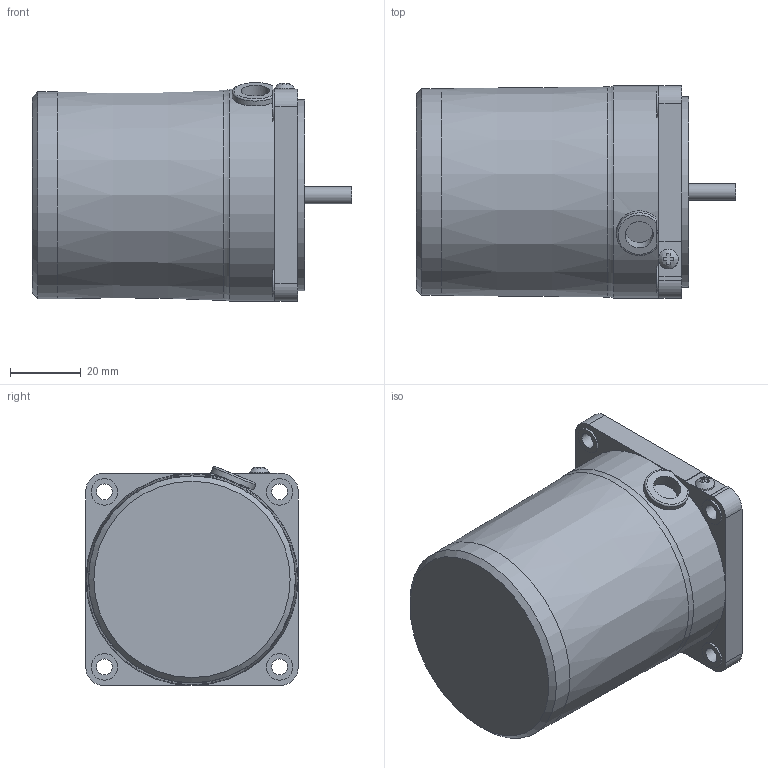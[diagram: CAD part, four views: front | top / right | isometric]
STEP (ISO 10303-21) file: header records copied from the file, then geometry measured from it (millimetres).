
FILE_DESCRIPTION(/* description */ (''),/* implementation_level */ '2;1');
FILE_NAME(/* name */ 'E:\도면작업\2016\0704) 미주향 SG 도면\3D MOTOR\SG6I06G_.stp',/* time_stamp */ '2016-07-22T13:40:45+09:00',/* author */ ('jy-jung'),/* organization */ (''),/* preprocessor_version */ 'ST-DEVELOPER v15.6',/* originating_system */ 'Autodesk Inventor 2015',/* authorisation */ '');
FILE_SCHEMA (('AUTOMOTIVE_DESIGN { 1 0 10303 214 3 1 1 }'));
Length unit declared in the file: millimetre
Products named in the file (1): 부품1
Bounding box: 90.2 x 60 x 61.91 mm (x, y, z)
Volume: 209594.4 mm3; surface area: 23469.2 mm2
Topology: 1 solids, 2 shells, 95 faces, 244 edges, 159 vertices
Faces by surface type: plane 60, cylinder 30, torus 2, cone 2, bspline 1
Full cylindrical faces by diameter (mm): 4.5 x4, 4.76 x1, 5.6 x1, 7.5 x4, 8 x1, 10.1 x1, 25 x1, 54 x1, 58.5 x1, 60 x1
Entity records: 3043 total; most frequent: CARTESIAN_POINT 623, DIRECTION 470, ORIENTED_EDGE 446, EDGE_CURVE 223, AXIS2_PLACEMENT_3D 171, VERTEX_POINT 157, EDGE_LOOP 134, LINE 128
